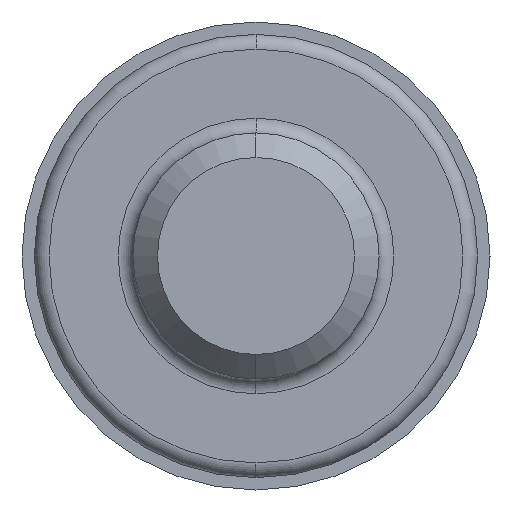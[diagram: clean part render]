
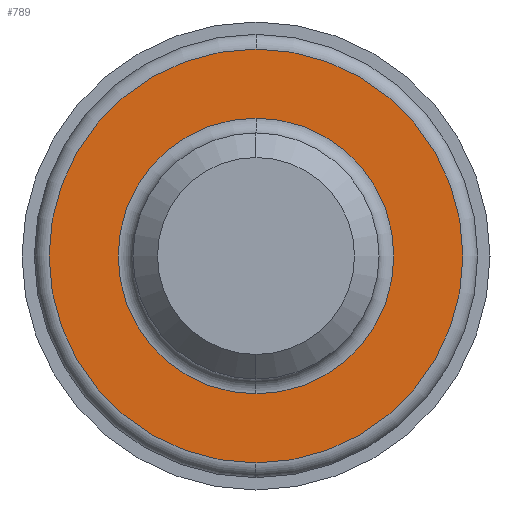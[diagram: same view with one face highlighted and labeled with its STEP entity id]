
A CAD part, left-side view. The second image highlights one B-rep face of the part: STEP entity #789.
In plain terms, the highlighted planar face has unit normal (-1, 0, 0).
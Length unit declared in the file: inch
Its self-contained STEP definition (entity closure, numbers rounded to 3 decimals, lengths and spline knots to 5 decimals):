
#21 = CIRCLE ( 'NONE', #492, 0.27985 ) ;
#23 = EDGE_CURVE ( 'NONE', #601, #592, #291, .T. ) ;
#28 = DIRECTION ( 'NONE',  ( -1., 0., 0. ) ) ;
#34 = DIRECTION ( 'NONE',  ( 0., 0., 1. ) ) ;
#47 = ORIENTED_EDGE ( 'NONE', *, *, #23, .F. ) ;
#49 = CIRCLE ( 'NONE', #377, 0.42 ) ;
#116 = CARTESIAN_POINT ( 'NONE',  ( 1.88, 0., 0. ) ) ;
#144 = CARTESIAN_POINT ( 'NONE',  ( 1.88, 0., 0. ) ) ;
#147 = EDGE_LOOP ( 'NONE', ( #47, #536 ) ) ;
#170 = DIRECTION ( 'NONE',  ( 0., 0., -1. ) ) ;
#179 = DIRECTION ( 'NONE',  ( -1., 0., 0. ) ) ;
#190 = CARTESIAN_POINT ( 'NONE',  ( 1.88, 0., -0.42 ) ) ;
#199 = ORIENTED_EDGE ( 'NONE', *, *, #407, .T. ) ;
#242 = DIRECTION ( 'NONE',  ( -1., 0., 0. ) ) ;
#263 = ORIENTED_EDGE ( 'NONE', *, *, #575, .T. ) ;
#275 = CARTESIAN_POINT ( 'NONE',  ( 1.88, 0., 0.27985 ) ) ;
#291 = CIRCLE ( 'NONE', #811, 0.27985 ) ;
#320 = EDGE_CURVE ( 'NONE', #592, #601, #21, .T. ) ;
#321 = VERTEX_POINT ( 'NONE', #358 ) ;
#358 = CARTESIAN_POINT ( 'NONE',  ( 1.88, 0., 0.42 ) ) ;
#359 = CARTESIAN_POINT ( 'NONE',  ( 1.88, 0., 0. ) ) ;
#377 = AXIS2_PLACEMENT_3D ( 'NONE', #144, #28, #725 ) ;
#407 = EDGE_CURVE ( 'NONE', #321, #455, #471, .T. ) ;
#435 = FACE_BOUND ( 'NONE', #147, .T. ) ;
#455 = VERTEX_POINT ( 'NONE', #190 ) ;
#471 = CIRCLE ( 'NONE', #510, 0.42 ) ;
#492 = AXIS2_PLACEMENT_3D ( 'NONE', #116, #179, #34 ) ;
#496 = DIRECTION ( 'NONE',  ( 1., 0., 0. ) ) ;
#498 = DIRECTION ( 'NONE',  ( 0., 0., 1. ) ) ;
#510 = AXIS2_PLACEMENT_3D ( 'NONE', #556, #242, #498 ) ;
#536 = ORIENTED_EDGE ( 'NONE', *, *, #320, .F. ) ;
#548 = FACE_OUTER_BOUND ( 'NONE', #812, .T. ) ;
#550 = DIRECTION ( 'NONE',  ( -1., 0., 0. ) ) ;
#556 = CARTESIAN_POINT ( 'NONE',  ( 1.88, 0., 0. ) ) ;
#575 = EDGE_CURVE ( 'NONE', #455, #321, #49, .T. ) ;
#588 = AXIS2_PLACEMENT_3D ( 'NONE', #804, #496, #170 ) ;
#592 = VERTEX_POINT ( 'NONE', #644 ) ;
#601 = VERTEX_POINT ( 'NONE', #275 ) ;
#644 = CARTESIAN_POINT ( 'NONE',  ( 1.88, 0., -0.27985 ) ) ;
#725 = DIRECTION ( 'NONE',  ( 0., 0., 1. ) ) ;
#740 = PLANE ( 'NONE',  #588 ) ;
#789 = ADVANCED_FACE ( 'NONE', ( #435, #548 ), #740, .F. ) ;
#799 = DIRECTION ( 'NONE',  ( 0., 0., 1. ) ) ;
#804 = CARTESIAN_POINT ( 'NONE',  ( 1.88, 0.42, 0. ) ) ;
#811 = AXIS2_PLACEMENT_3D ( 'NONE', #359, #550, #799 ) ;
#812 = EDGE_LOOP ( 'NONE', ( #199, #263 ) ) ;
